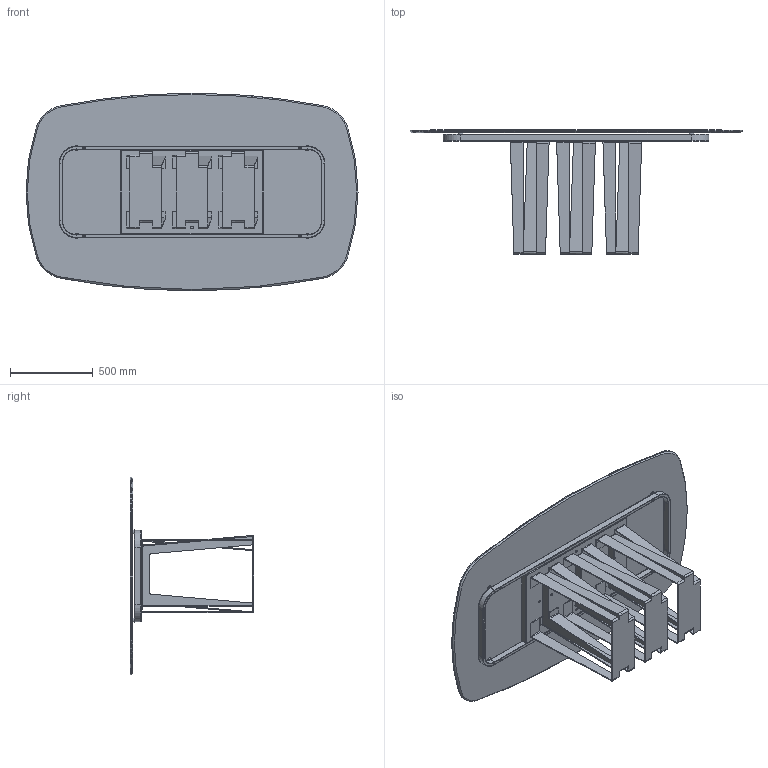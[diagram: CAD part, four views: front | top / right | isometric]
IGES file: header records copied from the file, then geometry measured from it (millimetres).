
Start section: SolidWorks IGES file using analytic representation for surfaces
Global section: file name: Y:\eforma\TECNICO\SOLIDWORKS\E-FORMA\1-TAVOLI\NARCISO\02 parts\NA40C.IGS; native system: SolidWorks 2022; preprocessor: SolidWorks 2022; author: eforma.tech; date: 240807.164242; units: millimetre
Bounding box: 2000 x 746 x 1190 mm (x, y, z)
Volume: 45809565.5 mm3; surface area: 13569894.9 mm2
Topology: 31 solids, 31 shells, 1012 faces, 2476 edges, 1520 vertices
Faces by surface type: plane 539, revolution 437, bspline 36
